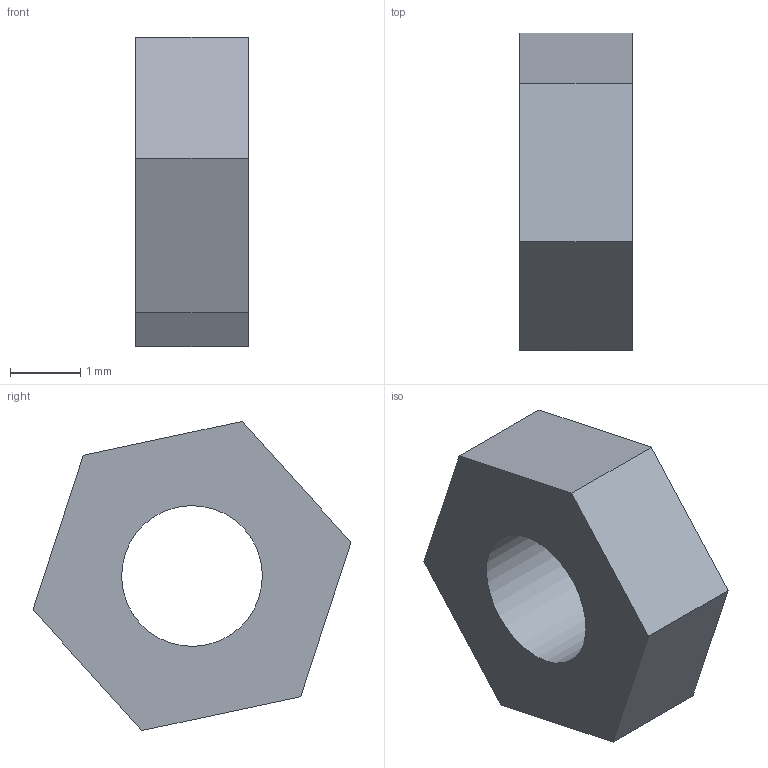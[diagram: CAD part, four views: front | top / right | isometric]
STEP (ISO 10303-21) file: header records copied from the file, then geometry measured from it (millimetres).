
FILE_DESCRIPTION(('Open CASCADE Model'),'2;1');
FILE_NAME('Open CASCADE Shape Model','2026-10-16T20:10:44',('Author'),( 'Open CASCADE'),'Open CASCADE STEP processor 7.9','Open CASCADE 7.9' ,'Unknown');
FILE_SCHEMA(('AUTOMOTIVE_DESIGN { 1 0 10303 214 1 1 1 1 }'));
Length unit declared in the file: millimetre
Products named in the file (1): Open CASCADE STEP translator 7.9 28
Bounding box: 1.6 x 4.52 x 4.39 mm (x, y, z)
Volume: 17.1 mm3; surface area: 53.7 mm2
Topology: 1 solids, 1 shells, 9 faces, 21 edges, 14 vertices
Faces by surface type: plane 8, cylinder 1
Full cylindrical faces by diameter (mm): 2 x1
Entity records: 550 total; most frequent: CARTESIAN_POINT 99, DIRECTION 83, LINE 59, VECTOR 59, ORIENTED_EDGE 42, PCURVE 42, DEFINITIONAL_REPRESENTATION 42, EDGE_CURVE 21
